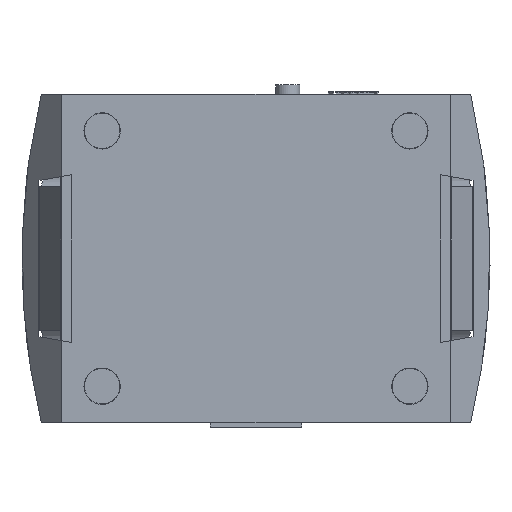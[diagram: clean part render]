
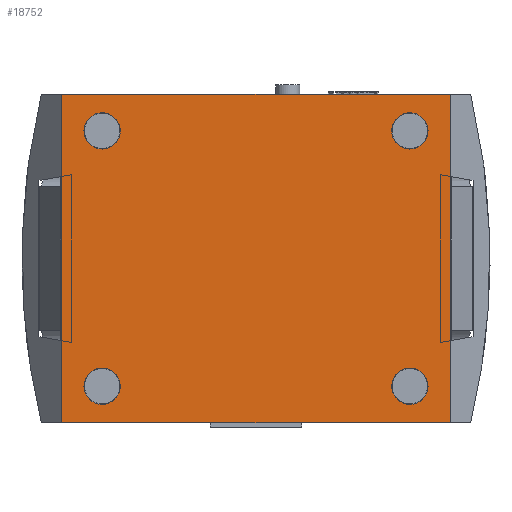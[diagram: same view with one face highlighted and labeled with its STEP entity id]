
A CAD part, front view. The second image highlights one B-rep face of the part: STEP entity #18752.
In plain terms, the highlighted planar face has unit normal (0, -1, 0).
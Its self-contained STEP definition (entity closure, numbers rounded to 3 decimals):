
#109=FACE_BOUND('',#2769,.T.);
#110=FACE_BOUND('',#2770,.T.);
#111=FACE_BOUND('',#2771,.T.);
#112=FACE_BOUND('',#2772,.T.);
#673=PLANE('',#19500);
#1702=FACE_OUTER_BOUND('',#2768,.T.);
#2768=EDGE_LOOP('',(#17124,#17125,#17126,#17127));
#2769=EDGE_LOOP('',(#17128));
#2770=EDGE_LOOP('',(#17129));
#2771=EDGE_LOOP('',(#17130));
#2772=EDGE_LOOP('',(#17131));
#2859=CIRCLE('',#19466,12.8);
#2861=CIRCLE('',#19470,12.8);
#2863=CIRCLE('',#19474,12.8);
#2865=CIRCLE('',#19478,12.8);
#4663=LINE('',#36116,#6490);
#4674=LINE('',#36138,#6501);
#4690=LINE('',#36171,#6517);
#4691=LINE('',#36172,#6518);
#6490=VECTOR('',#22554,10.);
#6501=VECTOR('',#22571,10.);
#6517=VECTOR('',#22603,10.);
#6518=VECTOR('',#22604,10.);
#9099=VERTEX_POINT('',#36043);
#9101=VERTEX_POINT('',#36050);
#9103=VERTEX_POINT('',#36057);
#9105=VERTEX_POINT('',#36064);
#9123=VERTEX_POINT('',#36113);
#9124=VERTEX_POINT('',#36115);
#9132=VERTEX_POINT('',#36136);
#9141=VERTEX_POINT('',#36170);
#11798=EDGE_CURVE('',#9099,#9099,#2859,.T.);
#11801=EDGE_CURVE('',#9101,#9101,#2861,.T.);
#11804=EDGE_CURVE('',#9103,#9103,#2863,.T.);
#11807=EDGE_CURVE('',#9105,#9105,#2865,.T.);
#11831=EDGE_CURVE('',#9123,#9124,#4663,.T.);
#11842=EDGE_CURVE('',#9132,#9123,#4674,.T.);
#11859=EDGE_CURVE('',#9132,#9141,#4690,.T.);
#11860=EDGE_CURVE('',#9141,#9124,#4691,.T.);
#17124=ORIENTED_EDGE('',*,*,#11859,.T.);
#17125=ORIENTED_EDGE('',*,*,#11860,.T.);
#17126=ORIENTED_EDGE('',*,*,#11831,.F.);
#17127=ORIENTED_EDGE('',*,*,#11842,.F.);
#17128=ORIENTED_EDGE('',*,*,#11798,.T.);
#17129=ORIENTED_EDGE('',*,*,#11801,.T.);
#17130=ORIENTED_EDGE('',*,*,#11804,.T.);
#17131=ORIENTED_EDGE('',*,*,#11807,.T.);
#18752=ADVANCED_FACE('',(#1702,#109,#110,#111,#112),#673,.T.);
#19466=AXIS2_PLACEMENT_3D('',#36044,#22483,#22484);
#19470=AXIS2_PLACEMENT_3D('',#36051,#22492,#22493);
#19474=AXIS2_PLACEMENT_3D('',#36058,#22501,#22502);
#19478=AXIS2_PLACEMENT_3D('',#36065,#22510,#22511);
#19500=AXIS2_PLACEMENT_3D('',#36169,#22601,#22602);
#22483=DIRECTION('center_axis',(0.,1.,0.));
#22484=DIRECTION('ref_axis',(1.,0.,0.));
#22492=DIRECTION('center_axis',(0.,1.,0.));
#22493=DIRECTION('ref_axis',(1.,0.,0.));
#22501=DIRECTION('center_axis',(0.,1.,0.));
#22502=DIRECTION('ref_axis',(1.,0.,0.));
#22510=DIRECTION('center_axis',(0.,1.,0.));
#22511=DIRECTION('ref_axis',(1.,0.,0.));
#22554=DIRECTION('',(0.,0.,1.));
#22571=DIRECTION('',(-1.,0.,0.));
#22601=DIRECTION('center_axis',(0.,-1.,0.));
#22602=DIRECTION('ref_axis',(1.,0.,0.));
#22603=DIRECTION('',(0.,0.,1.));
#22604=DIRECTION('',(-1.,0.,0.));
#36043=CARTESIAN_POINT('',(95.7,-1.,90.));
#36044=CARTESIAN_POINT('Origin',(108.5,-1.,90.));
#36050=CARTESIAN_POINT('',(-121.3,-1.,90.));
#36051=CARTESIAN_POINT('Origin',(-108.5,-1.,90.));
#36057=CARTESIAN_POINT('',(-121.3,-1.,-90.));
#36058=CARTESIAN_POINT('Origin',(-108.5,-1.,-90.));
#36064=CARTESIAN_POINT('',(95.7,-1.,-90.));
#36065=CARTESIAN_POINT('Origin',(108.5,-1.,-90.));
#36113=CARTESIAN_POINT('',(-137.016,-1.,-115.8));
#36115=CARTESIAN_POINT('',(-137.016,-1.,115.8));
#36116=CARTESIAN_POINT('',(-137.016,-1.,0.));
#36136=CARTESIAN_POINT('',(137.016,-1.,-115.8));
#36138=CARTESIAN_POINT('',(-153.581,-1.,-115.8));
#36169=CARTESIAN_POINT('Origin',(0.,-1.,0.));
#36170=CARTESIAN_POINT('',(137.016,-1.,115.8));
#36171=CARTESIAN_POINT('',(137.016,-1.,0.));
#36172=CARTESIAN_POINT('',(-153.581,-1.,115.8));
